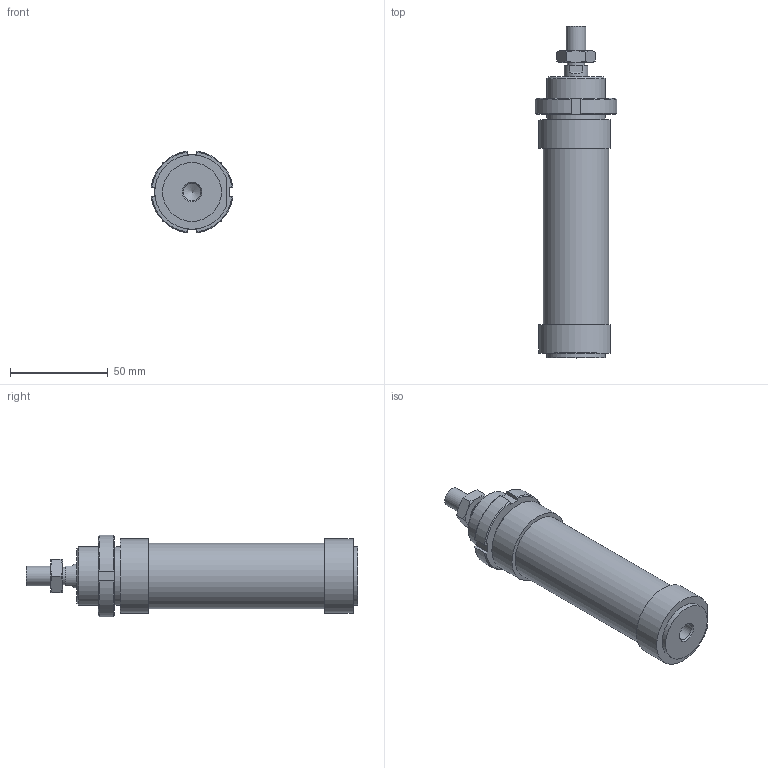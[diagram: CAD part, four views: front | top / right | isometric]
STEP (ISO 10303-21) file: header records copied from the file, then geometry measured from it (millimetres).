
FILE_DESCRIPTION((''),'2;1');
FILE_NAME('I:\Area Tecnica\Disegni\VARIE-3D\Componenti\1280\1281_##_####_#\1281_32_0050.iam.stp','2009-06-04T09:40:57',(''),(''),'Autodesk Inventor 2010','Autodesk Inventor 2010','');
FILE_SCHEMA(('AUTOMOTIVE_DESIGN { 1 0 10303 214 1 1 1 1 }'));
Length unit declared in the file: millimetre
Products named in the file (5): 1281_32_0050; C1281_32_50; S1280_32_50; 1200_32_05; 1200_32_06
Assembly tree (4 placements, depth 2):
  1281_32_0050
    C1281_32_50
    S1280_32_50
    1200_32_05
    1200_32_06
Bounding box: 41.7 x 169.5 x 41.7 mm (x, y, z)
Volume: 136613.3 mm3; surface area: 30316.4 mm2
Topology: 4 solids, 4 shells, 88 faces, 195 edges, 124 vertices
Faces by surface type: plane 39, cone 22, bspline 14, cylinder 13
Full cylindrical faces by diameter (mm): 8.8 x1, 10 x1, 12 x2, 30 x2, 33.6 x1
Entity records: 2663 total; most frequent: CARTESIAN_POINT 675, DIRECTION 362, ORIENTED_EDGE 338, EDGE_CURVE 169, AXIS2_PLACEMENT_3D 150, EDGE_LOOP 122, VERTEX_POINT 119, STYLED_ITEM 92
